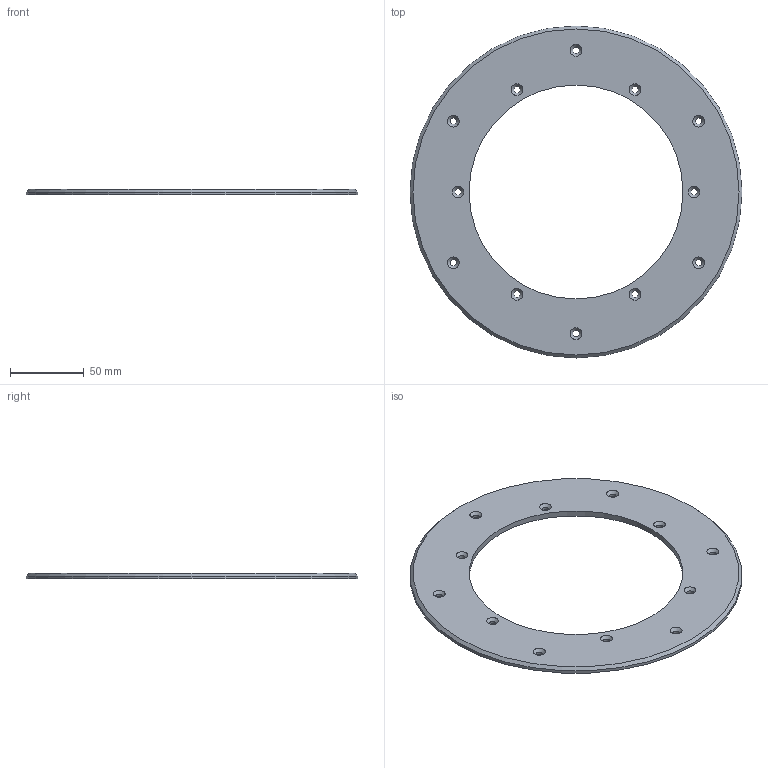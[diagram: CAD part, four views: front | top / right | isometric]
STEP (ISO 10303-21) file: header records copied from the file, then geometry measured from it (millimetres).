
FILE_DESCRIPTION( ( 'Unknown' ), '1' );
FILE_NAME( 'F:/navkite transat/construction/2016/3D ET ASSEMBLAGES/self tailing/WI 14.stp', 'Unknown', ( 'GMA' ), ( 'Unknown' ), 'XStep 1.0', 'Unknown', ' ' );
FILE_SCHEMA( ( 'automotive_design' ) );
Length unit declared in the file: millimetre
Products named in the file (1): 1
Bounding box: 225 x 225 x 4 mm (x, y, z)
Volume: 90342.5 mm3; surface area: 50512.7 mm2
Topology: 1 solids, 1 shells, 41 faces, 117 edges, 78 vertices
Faces by surface type: cylinder 20, cone 19, plane 2
Full cylindrical faces by diameter (mm): 4.5 x12, 6 x6, 145 x1, 225 x1
Entity records: 1364 total; most frequent: DIRECTION 190, CARTESIAN_POINT 154, EDGE_LOOP 106, ORIENTED_EDGE 106, AXIS2_PLACEMENT_3D 95, FACE_OUTER_BOUND 61, VERTEX_POINT 59, EDGE_CURVE 53
